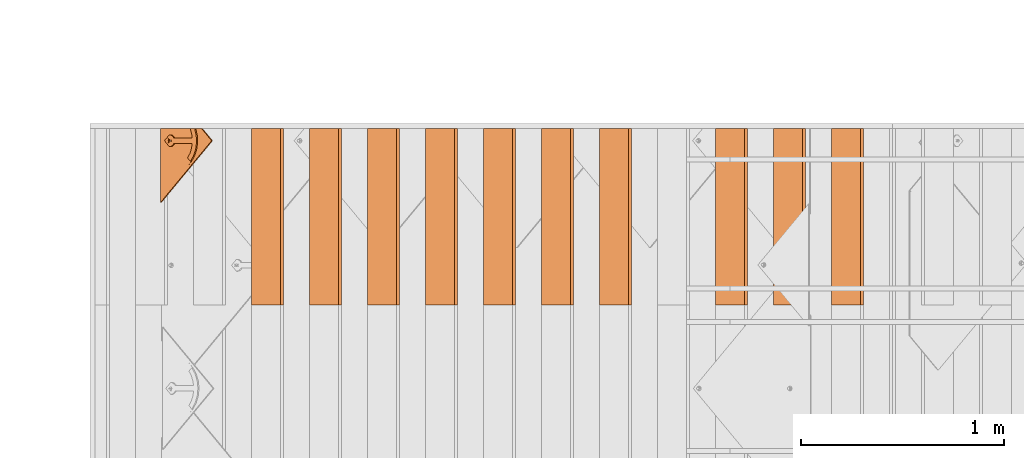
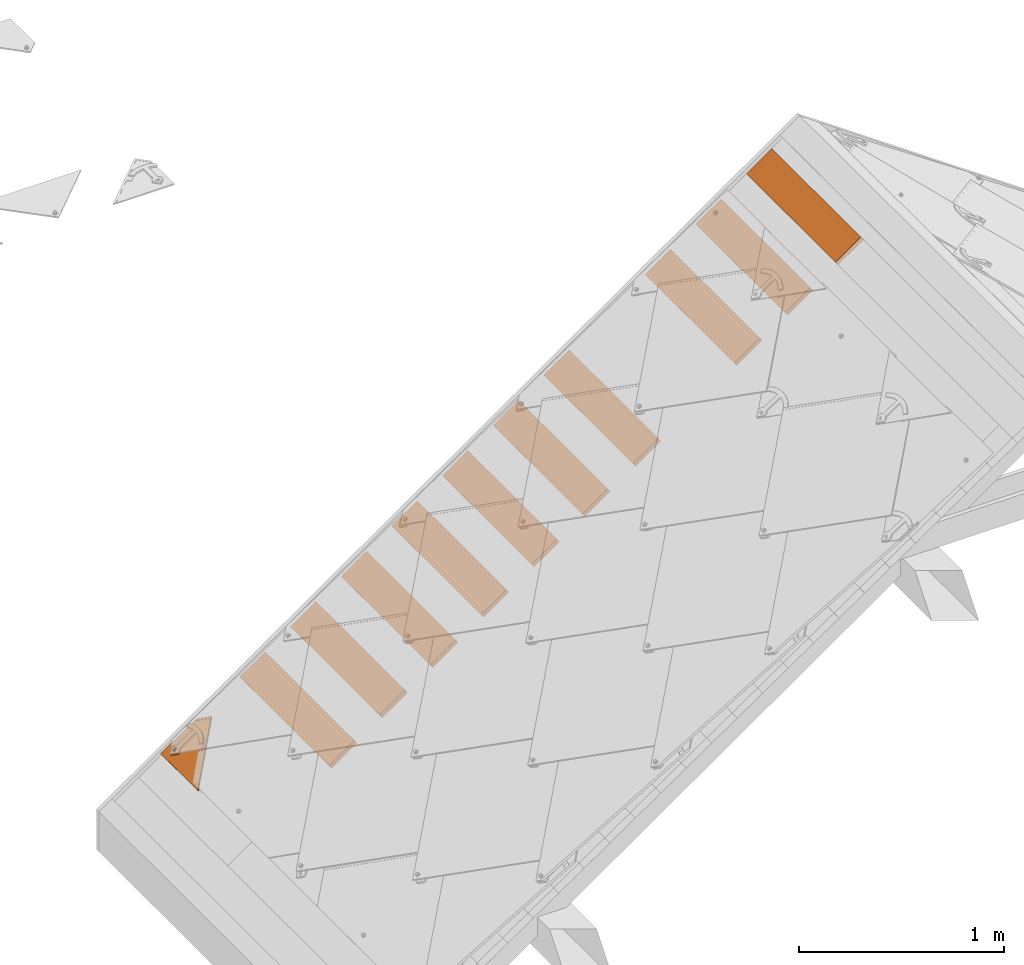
# One storey, part 107 of 133: 11 proxies, 1 element without a shape of its own.
"""IFC2X3 building model written with IfcOpenShell, lengths in millimetres."""

import ifcopenshell
import ifcopenshell.guid

model = None  # the IFC model being written
_history = None  # IfcOwnerHistory: only IFC2X3 demands one
_inside = {}  # id of a spatial element -> (the spatial element, [elements in it])
_under = {}  # id of a project, library or spatial element -> (it, [spatial elements below it])
_declared = {}  # id of a project -> (the project, [libraries it declares])
_typed = {}  # id of a type object -> (the type object, [elements of that type])
_made_of = {}  # id of a material, layer set ... -> (it, [elements and type objects made of it])


def new_model(schema):
    """Start an empty IFC model of exactly this schema.

    Asked for "IFC4X3", IfcOpenShell would pick the latest addendum, in which some entities
    have other attributes; the version numbers below select the first issue.
    IFC2X3 requires an IfcOwnerHistory on every rooted entity: one is made here for all.
    """
    global model, _history
    if schema == "IFC4X3":
        model = ifcopenshell.file(schema_version=(4, 3, 0, 0))
    else:
        model = ifcopenshell.file(schema=schema)
    _inside.clear()
    _under.clear()
    _declared.clear()
    _typed.clear()
    _made_of.clear()
    _history = None
    if model.schema == "IFC2X3":
        org = make("IfcOrganization", Name="unknown")
        user = make(
            "IfcPersonAndOrganization",
            ThePerson=make("IfcPerson", FamilyName="unknown"),
            TheOrganization=org,
        )
        app = make(
            "IfcApplication",
            ApplicationDeveloper=org,
            Version="unknown",
            ApplicationFullName="unknown",
            ApplicationIdentifier="unknown",
        )
        _history = make(
            "IfcOwnerHistory",
            OwningUser=user,
            OwningApplication=app,
            ChangeAction="ADDED",
            CreationDate=0,
        )
    return model


def make(cls, **values):
    """One entity of the class cls with the attributes given. An attribute that is None is left unset."""
    return model.create_entity(
        cls, **{name: value for name, value in values.items() if value is not None}
    )


def entity(cls, *values):
    """Any entity or typed value of the class cls, its attributes in the order of the schema. None: left unset."""
    e = model.create_entity(cls)
    for i, value in enumerate(values):
        if value is not None:
            e[i] = value
    return e


def rooted(cls, **values):
    """An entity with a GlobalId (a new one), such as an element, a storey or a relation."""
    return make(cls, GlobalId=ifcopenshell.guid.new(), OwnerHistory=_history, **values)


def si_unit(unit_type, name, prefix=None):
    """IfcSIUnit, for example si_unit("LENGTHUNIT", "METRE", prefix="MILLI")."""
    return make("IfcSIUnit", UnitType=unit_type, Prefix=prefix, Name=name)


def converted_unit(unit_type, name, factor, base, dimensions=None, offset=None):
    """IfcConversionBasedUnit, such as the inch: factor (a typed value) times the base unit."""
    return make(
        "IfcConversionBasedUnit"
        if offset is None
        else "IfcConversionBasedUnitWithOffset",
        ConversionOffset=offset,
        Dimensions=None
        if dimensions is None
        else entity("IfcDimensionalExponents", *dimensions),
        UnitType=unit_type,
        Name=name,
        ConversionFactor=make(
            "IfcMeasureWithUnit", ValueComponent=factor, UnitComponent=base
        ),
    )


def derived_unit(unit_type, elements):
    """IfcDerivedUnit: a product of units, each with its exponent."""
    return make(
        "IfcDerivedUnit",
        Elements=[
            make("IfcDerivedUnitElement", Unit=unit, Exponent=power)
            for unit, power in elements
        ],
        UnitType=unit_type,
    )


def assignment(units):
    """IfcUnitAssignment: the units of a project."""
    return None if units is None else make("IfcUnitAssignment", Units=units)


def point(xyz):
    """IfcCartesianPoint."""
    return None if xyz is None else make("IfcCartesianPoint", Coordinates=xyz)


def direction(xyz):
    """IfcDirection."""
    return None if xyz is None else make("IfcDirection", DirectionRatios=xyz)


def frame(location, z_axis=None, x_axis=None):
    """IfcAxis2Placement3D, a coordinate frame: its origin and axes. An axis left out is left unset."""
    return make(
        "IfcAxis2Placement3D",
        Location=point(location),
        Axis=direction(z_axis),
        RefDirection=direction(x_axis),
    )


def frame_2d(location, x_axis=None):
    """IfcAxis2Placement2D, a coordinate frame in the plane: its origin and x axis."""
    return make(
        "IfcAxis2Placement2D", Location=point(location), RefDirection=direction(x_axis)
    )


def origin():
    """The frame at (0, 0, 0) with its axes left unset."""
    return frame((0.0, 0.0, 0.0))


def place(relative_to, where):
    """IfcLocalPlacement: puts the frame where relative to a parent placement (None: the world)."""
    return make(
        "IfcLocalPlacement", PlacementRelTo=relative_to, RelativePlacement=where
    )


def context(
    kind, dimensions, precision=None, world=None, true_north=None, identifier=None
):
    """IfcGeometricRepresentationContext, for example the 3D "Model" context."""
    return make(
        "IfcGeometricRepresentationContext",
        ContextIdentifier=identifier,
        ContextType=kind,
        CoordinateSpaceDimension=dimensions,
        Precision=precision,
        WorldCoordinateSystem=world,
        TrueNorth=true_north,
    )


def subcontext(parent, identifier, kind, view, scale=None):
    """IfcGeometricRepresentationSubContext, for example "Body" below "Model"."""
    return make(
        "IfcGeometricRepresentationSubContext",
        ContextIdentifier=identifier,
        ContextType=kind,
        ParentContext=parent,
        TargetScale=scale,
        TargetView=view,
    )


def project(units=None, contexts=None):
    """IfcProject with its units and contexts."""
    return rooted(
        "IfcProject",
        Name="project",
        RepresentationContexts=contexts,
        UnitsInContext=assignment(units),
    )


def spatial(cls, under=None, at=None, **own):
    """A site, building, storey or space (cls), placed at a placement, below another one or the project."""
    s = rooted(cls, ObjectPlacement=at, **own)
    if under is not None:
        _under.setdefault(under.id(), (under, []))[1].append(s)
    return s


def profile(cls, at=None, kind="AREA", **sizes):
    """A parametric profile (cls). Its sizes go by their IFC names, for example OverallWidth=200.0."""
    return make(cls, ProfileType=kind, Position=at, **sizes)


def rectangle(**sizes):
    """IfcRectangleProfileDef."""
    return profile("IfcRectangleProfileDef", **sizes)


def extrude(swept, where, along, depth):
    """IfcExtrudedAreaSolid: the profile swept, set in the frame where, extruded along a direction by depth."""
    return make(
        "IfcExtrudedAreaSolid",
        SweptArea=swept,
        Position=where,
        ExtrudedDirection=direction(along),
        Depth=depth,
    )


def faces_of(points, faces, orient=None, outer=None):
    """IfcFace entities. A face is a list of loops; a loop is a list of indices into points, from 0.

    orient and outer hold one flag for each loop. By default every Orientation is true, the
    first loop of a face is its IfcFaceOuterBound and the others are IfcFaceBound.
    """
    made = []
    for i, loops in enumerate(faces):
        bounds = []
        for j, loop in enumerate(loops):
            is_outer = j == 0 if outer is None else outer[i][j]
            bounds.append(
                make(
                    "IfcFaceOuterBound" if is_outer else "IfcFaceBound",
                    Bound=make("IfcPolyLoop", Polygon=[points[k] for k in loop]),
                    Orientation=True if orient is None else orient[i][j],
                )
            )
        made.append(make("IfcFace", Bounds=bounds))
    return made


def faceted_brep(points, faces, orient=None, outer=None, voids=None):
    """IfcFacetedBrep: a solid bounded by flat faces; with voids (closed shells), ...WithVoids."""
    shared = [point(p) for p in points]
    hull = make("IfcClosedShell", CfsFaces=faces_of(shared, faces, orient, outer))
    if voids is None:
        return make("IfcFacetedBrep", Outer=hull)
    return make(
        "IfcFacetedBrepWithVoids",
        Outer=hull,
        Voids=[
            make(cls, CfsFaces=faces_of(shared, fs, o, b)) for cls, fs, o, b in voids
        ],
    )


def shape(context_of_items, identifier, shape_type, items):
    """IfcShapeRepresentation: the items that make up one representation, for example the "Body"."""
    return make(
        "IfcShapeRepresentation",
        ContextOfItems=context_of_items,
        RepresentationIdentifier=identifier,
        RepresentationType=shape_type,
        Items=items,
    )


def source(mapping_origin, context_of_items, identifier, shape_type, items):
    """IfcRepresentationMap: a shape defined once, which mapped items show again and again."""
    return make(
        "IfcRepresentationMap",
        MappingOrigin=mapping_origin,
        MappedRepresentation=shape(context_of_items, identifier, shape_type, items),
    )


def transform(
    local_origin,
    x_axis=None,
    y_axis=None,
    z_axis=None,
    scale=None,
    scale2=None,
    scale3=None,
    uniform=True,
):
    """IfcCartesianTransformationOperator3D, or its non-uniform kind. x_axis, y_axis, z_axis: its Axis1, 2, 3."""
    if uniform:
        return make(
            "IfcCartesianTransformationOperator3D",
            Axis1=direction(x_axis),
            Axis2=direction(y_axis),
            LocalOrigin=point(local_origin),
            Scale=scale,
            Axis3=direction(z_axis),
        )
    return make(
        "IfcCartesianTransformationOperator3DnonUniform",
        Axis1=direction(x_axis),
        Axis2=direction(y_axis),
        LocalOrigin=point(local_origin),
        Scale=scale,
        Axis3=direction(z_axis),
        Scale2=scale2,
        Scale3=scale3,
    )


def mapped(mapping_source, mapping_target):
    """IfcMappedItem: shows the shape of a source again, moved by a transform."""
    return make(
        "IfcMappedItem", MappingSource=mapping_source, MappingTarget=mapping_target
    )


def material(Name=None, Category=None):
    """IfcMaterial."""
    return make("IfcMaterial", Name=Name, Category=Category)


def material_list(materials):
    """IfcMaterialList."""
    return make("IfcMaterialList", Materials=materials)


def made_of(thing, what):
    """Note that an element or type object is made of a material, layer set ...; save() writes the relation."""
    if what is not None:
        _made_of.setdefault(what.id(), (what, []))[1].append(thing)
    return thing


def type_object(cls, material=None, **own):
    """A type object (cls), such as IfcWallType, which elements share."""
    return made_of(rooted(cls, **own), material)


def type_shapes(of_type, sources):
    """Give a type object the sources (RepresentationMaps) that its elements show as mapped items."""
    of_type.RepresentationMaps = sources


def element(
    cls,
    number,
    at=None,
    inside=None,
    cuts=None,
    type_object=None,
    material=None,
    context=None,
    identifier="Body",
    shape_type=None,
    held_by="IfcProductDefinitionShape",
    body=None,
    shapes=None,
    **own,
):
    """One element of the class cls, such as IfcWall. Its Tag is "e" and its number.

    at: its placement. inside: the storey or other place that contains it. cuts: it is an
    opening in that element (IfcRelVoidsElement). A single representation is given by context,
    identifier, shape_type and body (its items); several are given by shapes. held_by: the class
    of the entity that holds the representations. save() writes the other relations.
    """
    e = rooted(cls, Tag="e%d" % number, ObjectPlacement=at, **own)
    if body is not None:
        shapes = [shape(context, identifier, shape_type, body)]
    if shapes is not None:
        e.Representation = make(held_by, Representations=shapes)
    if inside is not None:
        _inside.setdefault(inside.id(), (inside, []))[1].append(e)
    if cuts is not None:
        rooted(
            "IfcRelVoidsElement", RelatingBuildingElement=cuts, RelatedOpeningElement=e
        )
    if type_object is not None:
        _typed.setdefault(type_object.id(), (type_object, []))[1].append(e)
    return made_of(e, material)


def aggregate(whole, parts):
    """IfcRelAggregates: a whole, such as a stair, and the parts it consists of."""
    return rooted("IfcRelAggregates", RelatingObject=whole, RelatedObjects=parts)


def save(model, path):
    """Write the relations noted so far, then the file.

    IfcRelAggregates (storeys below a building ...), IfcRelContainedInSpatialStructure (elements
    in a storey), IfcRelDefinesByType, IfcRelAssociatesMaterial and IfcRelDeclares: one each for
    every whole, place, type object, material and project.
    """
    for whole, parts in _under.values():
        aggregate(whole, parts)
    for where, things in _inside.values():
        rooted(
            "IfcRelContainedInSpatialStructure",
            RelatedElements=things,
            RelatingStructure=where,
        )
    for kind, things in _typed.values():
        rooted("IfcRelDefinesByType", RelatedObjects=things, RelatingType=kind)
    for what, things in _made_of.values():
        rooted("IfcRelAssociatesMaterial", RelatedObjects=things, RelatingMaterial=what)
    for by, libraries in _declared.values():
        rooted("IfcRelDeclares", RelatingContext=by, RelatedDefinitions=libraries)
    model.write(path)


model = new_model("IFC2X3")

# Units and contexts
model_context = context("Model", 3, precision=0.01, world=origin(), true_north=direction((6.12303176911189e-17, 1.0)))
body_context = subcontext(model_context, "Body", "Model", "MODEL_VIEW")
ifc_project = project(units=[si_unit("LENGTHUNIT", "METRE", prefix="MILLI"), si_unit("AREAUNIT", "SQUARE_METRE"), si_unit("VOLUMEUNIT", "CUBIC_METRE"), converted_unit("PLANEANGLEUNIT", "DEGREE", entity("IfcRatioMeasure", 0.0174532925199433), si_unit("PLANEANGLEUNIT", "RADIAN"), dimensions=[0, 0, 0, 0, 0, 0, 0]), si_unit("MASSUNIT", "GRAM", prefix="KILO"), derived_unit("MASSDENSITYUNIT", [(si_unit("MASSUNIT", "GRAM", prefix="KILO"), 1), (si_unit("LENGTHUNIT", "METRE"), -3)]), si_unit("TIMEUNIT", "SECOND"), si_unit("FREQUENCYUNIT", "HERTZ"), si_unit("THERMODYNAMICTEMPERATUREUNIT", "DEGREE_CELSIUS"), derived_unit("THERMALTRANSMITTANCEUNIT", [(si_unit("MASSUNIT", "GRAM", prefix="KILO"), 1), (si_unit("THERMODYNAMICTEMPERATUREUNIT", "KELVIN"), -1), (si_unit("TIMEUNIT", "SECOND"), -3)]), derived_unit("VOLUMETRICFLOWRATEUNIT", [(si_unit("LENGTHUNIT", "METRE"), 3), (si_unit("TIMEUNIT", "SECOND"), -1)]), si_unit("ELECTRICCURRENTUNIT", "AMPERE"), si_unit("ELECTRICVOLTAGEUNIT", "VOLT"), si_unit("POWERUNIT", "WATT"), si_unit("FORCEUNIT", "NEWTON", prefix="KILO"), si_unit("ILLUMINANCEUNIT", "LUX"), si_unit("LUMINOUSFLUXUNIT", "LUMEN"), si_unit("LUMINOUSINTENSITYUNIT", "CANDELA"), derived_unit("USERDEFINED", [(si_unit("MASSUNIT", "GRAM", prefix="KILO"), -1), (si_unit("LENGTHUNIT", "METRE"), -2), (si_unit("TIMEUNIT", "SECOND"), 3), (si_unit("LUMINOUSFLUXUNIT", "LUMEN"), 1)]), derived_unit("LINEARVELOCITYUNIT", [(si_unit("LENGTHUNIT", "METRE"), 1), (si_unit("TIMEUNIT", "SECOND"), -1)]), si_unit("PRESSUREUNIT", "PASCAL"), derived_unit("USERDEFINED", [(si_unit("LENGTHUNIT", "METRE"), -2), (si_unit("MASSUNIT", "GRAM", prefix="KILO"), 1), (si_unit("TIMEUNIT", "SECOND"), -2)])], contexts=[model_context])

# Site, building, storey
site_placement = place(None, origin())
site = spatial("IfcSite", under=ifc_project, at=site_placement, Name="Default", CompositionType="ELEMENT")
building_placement = place(site_placement, origin())
building = spatial("IfcBuilding", under=site, at=building_placement, CompositionType="ELEMENT")
storey_placement = place(building_placement, origin())
storey = spatial("IfcBuildingStorey", under=building, at=storey_placement, Name="Level 1", CompositionType="ELEMENT", Elevation=0.0)

# Assembly, proxies
assembly_placement = place(storey_placement, origin())
assembly = element("IfcElementAssembly", 1, at=assembly_placement, inside=storey, Name="Structural Framing Assembly:Roof Construction Assembly", ObjectType="Structural Framing Assembly:Roof Construction Assembly", AssemblyPlace="NOTDEFINED", PredefinedType="USERDEFINED")
ifc_material_1 = material(Name="Wood - Generic - Wood For Showcase")
building_element_proxy_type_1 = type_object("IfcBuildingElementProxyType", Name="Structural Framing 15", PredefinedType="NOTDEFINED", material=ifc_material_1)
shared_shape_1 = source(origin(), body_context, "Body", "SweptSolid", [
    extrude(rectangle(XDim=24.9999999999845, YDim=174.344679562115, at=frame_2d((-1.77635683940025e-13, -4.54747350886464e-13), x_axis=(0.0, 1.0))), frame((1128.20180147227, 3055.55080214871, 2760.23940055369), z_axis=(0.0, 1.0, 0.0), x_axis=(-0.819152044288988, 0.0, -0.573576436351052)), (0.0, 0.0, 1.0), 870.000000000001),
])
type_shapes(building_element_proxy_type_1, [shared_shape_1])
proxy_1_placement = place(assembly_placement, frame((-142.814800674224, 0.0, -100.0)))
proxy_1 = element("IfcBuildingElementProxy", 2, at=proxy_1_placement, type_object=building_element_proxy_type_1, material=ifc_material_1, Name="Structural Framing 24:Structural Framing 15", ObjectType="Structural Framing 24:Structural Framing 15", context=body_context, shape_type="MappedRepresentation", body=[
    mapped(shared_shape_1, transform((0.0, 0.0, 0.0), scale=1.0)),
])
building_element_proxy_type_2 = type_object("IfcBuildingElementProxyType", Name="Structural Framing 15", PredefinedType="NOTDEFINED", material=ifc_material_1)
shared_shape_2 = source(origin(), body_context, "Body", "SweptSolid", [
    extrude(rectangle(XDim=24.9999999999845, YDim=174.344679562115, at=frame_2d((-1.77635683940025e-13, -4.54747350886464e-13), x_axis=(0.0, 1.0))), frame((1128.20180147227, 3055.55080214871, 2760.23940055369), z_axis=(0.0, 1.0, 0.0), x_axis=(-0.819152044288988, 0.0, -0.573576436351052)), (0.0, 0.0, 1.0), 870.000000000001),
])
type_shapes(building_element_proxy_type_2, [shared_shape_2])
proxy_2_placement = place(assembly_placement, frame((-428.444402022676, 0.0, -300.0)))
proxy_2 = element("IfcBuildingElementProxy", 3, at=proxy_2_placement, type_object=building_element_proxy_type_2, material=ifc_material_1, Name="Structural Framing 34:Structural Framing 15", ObjectType="Structural Framing 34:Structural Framing 15", context=body_context, shape_type="MappedRepresentation", body=[
    mapped(shared_shape_2, transform((0.0, 0.0, 0.0), scale=1.0)),
])
building_element_proxy_type_3 = type_object("IfcBuildingElementProxyType", Name="Structural Framing 15", PredefinedType="NOTDEFINED", material=ifc_material_1)
shared_shape_3 = source(origin(), body_context, "Body", "SweptSolid", [
    extrude(rectangle(XDim=24.9999999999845, YDim=174.344679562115, at=frame_2d((-1.77635683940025e-13, -4.54747350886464e-13), x_axis=(0.0, 1.0))), frame((1128.20180147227, 3055.55080214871, 2760.23940055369), z_axis=(0.0, 1.0, 0.0), x_axis=(-0.819152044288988, 0.0, -0.573576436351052)), (0.0, 0.0, 1.0), 870.000000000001),
])
type_shapes(building_element_proxy_type_3, [shared_shape_3])
proxy_3_placement = place(assembly_placement, frame((-714.074003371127, 0.0, -500.0)))
proxy_3 = element("IfcBuildingElementProxy", 4, at=proxy_3_placement, type_object=building_element_proxy_type_3, material=ifc_material_1, Name="Structural Framing 44:Structural Framing 15", ObjectType="Structural Framing 44:Structural Framing 15", context=body_context, shape_type="MappedRepresentation", body=[
    mapped(shared_shape_3, transform((0.0, 0.0, 0.0), scale=1.0)),
])
building_element_proxy_type_4 = type_object("IfcBuildingElementProxyType", Name="Structural Framing 15", PredefinedType="NOTDEFINED", material=ifc_material_1)
shared_shape_4 = source(origin(), body_context, "Body", "SweptSolid", [
    extrude(rectangle(XDim=24.9999999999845, YDim=174.344679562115, at=frame_2d((-1.77635683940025e-13, -4.54747350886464e-13), x_axis=(0.0, 1.0))), frame((1128.20180147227, 3055.55080214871, 2760.23940055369), z_axis=(0.0, 1.0, 0.0), x_axis=(-0.819152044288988, 0.0, -0.573576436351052)), (0.0, 0.0, 1.0), 870.000000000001),
])
type_shapes(building_element_proxy_type_4, [shared_shape_4])
proxy_4_placement = place(assembly_placement, frame((-1285.33320606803, 0.0, -900.0)))
proxy_4 = element("IfcBuildingElementProxy", 5, at=proxy_4_placement, type_object=building_element_proxy_type_4, material=ifc_material_1, Name="Structural Framing 64:Structural Framing 15", ObjectType="Structural Framing 64:Structural Framing 15", context=body_context, shape_type="MappedRepresentation", body=[
    mapped(shared_shape_4, transform((0.0, 0.0, 0.0), scale=1.0)),
])
building_element_proxy_type_5 = type_object("IfcBuildingElementProxyType", Name="Structural Framing 15", PredefinedType="NOTDEFINED", material=ifc_material_1)
shared_shape_5 = source(origin(), body_context, "Body", "SweptSolid", [
    extrude(rectangle(XDim=24.9999999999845, YDim=174.344679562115, at=frame_2d((-1.77635683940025e-13, -4.54747350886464e-13), x_axis=(0.0, 1.0))), frame((1128.20180147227, 3055.55080214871, 2760.23940055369), z_axis=(0.0, 1.0, 0.0), x_axis=(-0.819152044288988, 0.0, -0.573576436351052)), (0.0, 0.0, 1.0), 870.000000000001),
])
type_shapes(building_element_proxy_type_5, [shared_shape_5])
proxy_5_placement = place(assembly_placement, frame((-1570.96280741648, 0.0, -1100.0)))
proxy_5 = element("IfcBuildingElementProxy", 6, at=proxy_5_placement, type_object=building_element_proxy_type_5, material=ifc_material_1, Name="Structural Framing 74:Structural Framing 15", ObjectType="Structural Framing 74:Structural Framing 15", context=body_context, shape_type="MappedRepresentation", body=[
    mapped(shared_shape_5, transform((0.0, 0.0, 0.0), scale=1.0)),
])
building_element_proxy_type_6 = type_object("IfcBuildingElementProxyType", Name="Structural Framing 15", PredefinedType="NOTDEFINED", material=ifc_material_1)
shared_shape_6 = source(origin(), body_context, "Body", "SweptSolid", [
    extrude(rectangle(XDim=24.9999999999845, YDim=174.344679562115, at=frame_2d((-1.77635683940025e-13, -4.54747350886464e-13), x_axis=(0.0, 1.0))), frame((1128.20180147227, 3055.55080214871, 2760.23940055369), z_axis=(0.0, 1.0, 0.0), x_axis=(-0.819152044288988, 0.0, -0.573576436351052)), (0.0, 0.0, 1.0), 870.000000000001),
])
type_shapes(building_element_proxy_type_6, [shared_shape_6])
proxy_6_placement = place(assembly_placement, frame((-1856.59240876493, 0.0, -1300.0)))
proxy_6 = element("IfcBuildingElementProxy", 7, at=proxy_6_placement, type_object=building_element_proxy_type_6, material=ifc_material_1, Name="Structural Framing 84:Structural Framing 15", ObjectType="Structural Framing 84:Structural Framing 15", context=body_context, shape_type="MappedRepresentation", body=[
    mapped(shared_shape_6, transform((0.0, 0.0, 0.0), scale=1.0)),
])
building_element_proxy_type_7 = type_object("IfcBuildingElementProxyType", Name="Structural Framing 15", PredefinedType="NOTDEFINED", material=ifc_material_1)
shared_shape_7 = source(origin(), body_context, "Body", "SweptSolid", [
    extrude(rectangle(XDim=24.9999999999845, YDim=174.344679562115, at=frame_2d((-1.77635683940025e-13, -4.54747350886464e-13), x_axis=(0.0, 1.0))), frame((1128.20180147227, 3055.55080214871, 2760.23940055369), z_axis=(0.0, 1.0, 0.0), x_axis=(-0.819152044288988, 0.0, -0.573576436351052)), (0.0, 0.0, 1.0), 870.000000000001),
])
type_shapes(building_element_proxy_type_7, [shared_shape_7])
proxy_7_placement = place(assembly_placement, frame((-2142.22201011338, 0.0, -1500.0)))
proxy_7 = element("IfcBuildingElementProxy", 8, at=proxy_7_placement, type_object=building_element_proxy_type_7, material=ifc_material_1, Name="Structural Framing 94:Structural Framing 15", ObjectType="Structural Framing 94:Structural Framing 15", context=body_context, shape_type="MappedRepresentation", body=[
    mapped(shared_shape_7, transform((0.0, 0.0, 0.0), scale=1.0)),
])
building_element_proxy_type_8 = type_object("IfcBuildingElementProxyType", Name="Structural Framing 15", PredefinedType="NOTDEFINED", material=ifc_material_1)
shared_shape_8 = source(origin(), body_context, "Body", "SweptSolid", [
    extrude(rectangle(XDim=24.9999999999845, YDim=174.344679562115, at=frame_2d((-1.77635683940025e-13, -4.54747350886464e-13), x_axis=(0.0, 1.0))), frame((1128.20180147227, 3055.55080214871, 2760.23940055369), z_axis=(0.0, 1.0, 0.0), x_axis=(-0.819152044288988, 0.0, -0.573576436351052)), (0.0, 0.0, 1.0), 870.000000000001),
])
type_shapes(building_element_proxy_type_8, [shared_shape_8])
proxy_8_placement = place(assembly_placement, frame((-2427.85161146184, 0.0, -1700.0)))
proxy_8 = element("IfcBuildingElementProxy", 9, at=proxy_8_placement, type_object=building_element_proxy_type_8, material=ifc_material_1, Name="Structural Framing 104:Structural Framing 15", ObjectType="Structural Framing 104:Structural Framing 15", context=body_context, shape_type="MappedRepresentation", body=[
    mapped(shared_shape_8, transform((0.0, 0.0, 0.0), scale=1.0)),
])
building_element_proxy_type_9 = type_object("IfcBuildingElementProxyType", Name="Structural Framing 15", PredefinedType="NOTDEFINED", material=ifc_material_1)
shared_shape_9 = source(origin(), body_context, "Body", "SweptSolid", [
    extrude(rectangle(XDim=24.9999999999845, YDim=174.344679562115, at=frame_2d((-1.77635683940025e-13, -4.54747350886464e-13), x_axis=(0.0, 1.0))), frame((1128.20180147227, 3055.55080214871, 2760.23940055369), z_axis=(0.0, 1.0, 0.0), x_axis=(-0.819152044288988, 0.0, -0.573576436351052)), (0.0, 0.0, 1.0), 870.000000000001),
])
type_shapes(building_element_proxy_type_9, [shared_shape_9])
proxy_9_placement = place(assembly_placement, frame((-2713.48121281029, 0.0, -1900.0)))
proxy_9 = element("IfcBuildingElementProxy", 10, at=proxy_9_placement, type_object=building_element_proxy_type_9, material=ifc_material_1, Name="Structural Framing 114:Structural Framing 15", ObjectType="Structural Framing 114:Structural Framing 15", context=body_context, shape_type="MappedRepresentation", body=[
    mapped(shared_shape_9, transform((0.0, 0.0, 0.0), scale=1.0)),
])
building_element_proxy_type_10 = type_object("IfcBuildingElementProxyType", Name="Structural Framing 15", PredefinedType="NOTDEFINED", material=ifc_material_1)
shared_shape_10 = source(origin(), body_context, "Body", "SweptSolid", [
    extrude(rectangle(XDim=24.9999999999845, YDim=174.344679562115, at=frame_2d((-1.77635683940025e-13, -4.54747350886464e-13), x_axis=(0.0, 1.0))), frame((1128.20180147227, 3055.55080214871, 2760.23940055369), z_axis=(0.0, 1.0, 0.0), x_axis=(-0.819152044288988, 0.0, -0.573576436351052)), (0.0, 0.0, 1.0), 870.000000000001),
])
type_shapes(building_element_proxy_type_10, [shared_shape_10])
proxy_10_placement = place(assembly_placement, frame((-2999.11081415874, 0.0, -2100.0)))
proxy_10 = element("IfcBuildingElementProxy", 11, at=proxy_10_placement, type_object=building_element_proxy_type_10, material=ifc_material_1, Name="Structural Framing 124:Structural Framing 15", ObjectType="Structural Framing 124:Structural Framing 15", context=body_context, shape_type="MappedRepresentation", body=[
    mapped(shared_shape_10, transform((0.0, 0.0, 0.0), scale=1.0)),
])
aggregate(assembly, [proxy_1, proxy_2, proxy_3, proxy_4, proxy_5, proxy_6, proxy_7, proxy_8, proxy_9, proxy_10])

# Proxy
ifc_material_2 = material(Name="Rubber - Sunstyle - Black")
ifc_material_3 = material(Name="Glass - Sunstyle - Tainted Black")
ifc_material_list_1 = material_list([ifc_material_2, ifc_material_3])
ifc_material_list_2 = material_list([ifc_material_2, ifc_material_3])
building_element_proxy_type_11 = type_object("IfcBuildingElementProxyType", Name="Corner Bottom Small Left - Black", PredefinedType="NOTDEFINED", material=ifc_material_list_2)
shared_shape_11 = source(origin(), body_context, "Body", "Brep", [
    faceted_brep([(330.847757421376, 18.4932261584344, 12.2894055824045), (339.332443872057, 26.9779126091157, 12.1473081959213), (339.332443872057, 27.0030303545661, 13.6470978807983), (330.847757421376, 18.5183439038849, 13.7891952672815), (61.6993486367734, 287.566165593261, 7.7831033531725), (10.0799586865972, 235.961249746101, 8.64735729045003), (1.59527223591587, 244.445936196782, 8.50525990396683), (61.6993486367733, 304.533159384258, 7.49894842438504), (61.6993486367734, 304.558277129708, 8.9987381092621), (1.59527223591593, 244.471053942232, 10.0050495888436), (10.0799586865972, 235.986367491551, 10.147146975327), (61.6993486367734, 287.591283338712, 9.2828930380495)], [[[0, 1, 2, 3]], [[1, 0, 4, 5, 6, 7]], [[2, 1, 7, 8]], [[3, 2, 8, 9, 10, 11]], [[0, 3, 11, 4]], [[5, 10, 9, 6]], [[8, 7, 6, 9]], [[4, 11, 10, 5]]]),
    faceted_brep([(61.6990261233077, 46.946835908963, 21.8142807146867), (61.6990261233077, 51.4462045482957, 21.7389274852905), (53.0953219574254, 50.5101071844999, 21.7546047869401), (70.3027302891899, 50.5101071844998, 21.7546047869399), (68.3392547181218, 55.2794047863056, 21.6747309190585), (73.8665012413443, 59.1126050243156, 21.6105343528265), (68.3392547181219, 62.9458052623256, 21.5463377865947), (70.30273028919, 67.7151028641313, 21.4664639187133), (61.6990261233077, 66.7790055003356, 21.4821412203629), (61.6990261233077, 71.2783741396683, 21.4067879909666), (53.0953219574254, 67.7151028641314, 21.4664639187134), (55.0587975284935, 62.9458052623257, 21.5463377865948), (49.5315510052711, 59.1126050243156, 21.6105343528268), (55.0587975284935, 55.2794047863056, 21.6747309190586), (55.0587978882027, 62.6778824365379, 5.54858115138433), (61.6990261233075, 66.5110824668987, 5.48438458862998), (55.0587978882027, 55.0114823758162, 5.6769742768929), (61.6990261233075, 51.1782823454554, 5.74117083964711), (68.3392543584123, 55.0114823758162, 5.67697427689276), (68.3392543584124, 62.6778824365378, 5.5485811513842), (53.0953219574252, 50.2421845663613, 5.75684814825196), (61.6990261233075, 46.6789132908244, 5.81652407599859), (49.5315510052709, 58.844682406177, 5.61277771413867), (53.0953219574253, 67.4471802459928, 5.4687072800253), (61.6990261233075, 71.0104515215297, 5.4090313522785), (70.3027302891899, 67.4471802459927, 5.46870728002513), (73.8665012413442, 58.844682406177, 5.61277771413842), (70.3027302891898, 50.2421845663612, 5.75684814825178)], [[[0, 1, 2]], [[1, 0, 3]], [[3, 4, 1]], [[4, 3, 5]], [[6, 4, 5]], [[5, 7, 6]], [[7, 8, 6]], [[8, 7, 9]], [[8, 9, 10]], [[10, 11, 8]], [[12, 11, 10]], [[2, 13, 12]], [[12, 13, 11]], [[13, 2, 1]], [[8, 11, 14, 15]], [[11, 13, 16, 14]], [[13, 1, 17, 16]], [[1, 4, 18, 17]], [[4, 6, 19, 18]], [[6, 8, 15, 19]], [[20, 17, 21]], [[17, 20, 16]], [[22, 16, 20]], [[14, 16, 22]], [[23, 14, 22]], [[15, 14, 23]], [[23, 24, 15]], [[24, 25, 15]], [[19, 15, 25]], [[19, 25, 26]], [[26, 18, 19]], [[26, 27, 18]], [[17, 18, 27]], [[27, 21, 17]], [[24, 23, 10, 9]], [[10, 23, 22, 12]], [[20, 21, 0, 2]], [[20, 2, 12, 22]], [[21, 27, 3, 0]], [[3, 27, 26, 5]], [[25, 24, 9, 7]], [[25, 7, 5, 26]]]),
    faceted_brep([(1.59527223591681, 244.445936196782, 8.50525990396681), (58.5931975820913, 70.7020897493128, 11.4150370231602), (61.6990261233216, 71.1109225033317, 11.4081900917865), (55.6990261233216, 69.5034527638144, 11.4351112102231), (64.8048546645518, 70.7020897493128, 11.4150370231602), (53.213744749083, 67.596696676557, 11.4670446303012), (51.3067212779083, 65.1117637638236, 11.5086610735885), (1.5952722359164, 0.125588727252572, 12.5970178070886), (67.6990261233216, 69.5034527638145, 11.4351112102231), (61.6993486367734, 304.533159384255, 7.49894842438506), (50.1079162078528, 62.2179980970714, 11.5571244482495), (49.6990261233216, 59.1126050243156, 11.6091320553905), (50.1079162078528, 56.0072119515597, 11.6611396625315), (51.3067212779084, 53.1134462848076, 11.7096030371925), (53.2137447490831, 50.6285133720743, 11.7512194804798), (55.6990261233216, 48.7217572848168, 11.7831529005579), (58.5931975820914, 47.5231202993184, 11.8032270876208), (61.6990261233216, 47.1142875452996, 11.8100740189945), (64.8048546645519, 47.5231202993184, 11.8032270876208), (67.6990261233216, 48.7217572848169, 11.7831529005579), (366.192299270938, 0.125588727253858, 12.5970178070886), (72.0913309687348, 65.1117637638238, 11.5086610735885), (73.2901360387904, 62.2179980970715, 11.5571244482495), (73.6990261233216, 59.1126050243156, 11.6091320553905), (70.1843074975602, 50.6285133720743, 11.7512194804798), (72.0913309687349, 53.1134462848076, 11.7096030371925), (73.2901360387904, 56.0072119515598, 11.6611396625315), (70.1843074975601, 67.596696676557, 11.4670446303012), (1.5952722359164, 0.0, 5.09806938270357), (55.6990261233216, 48.5961685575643, 4.2842044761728), (58.5931975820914, 47.3975315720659, 4.30427866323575), (53.2137447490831, 50.5029246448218, 4.25227105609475), (61.6990261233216, 46.9886988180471, 4.3111255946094), (51.3067212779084, 52.9878575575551, 4.21065461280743), (50.1079162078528, 55.8816232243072, 4.16219123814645), (49.6990261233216, 58.9870162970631, 4.11018363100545), (50.1079162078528, 62.0924093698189, 4.05817602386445), (64.8048546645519, 47.3975315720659, 4.30427866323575), (67.6990261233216, 48.5961685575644, 4.2842044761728), (366.192299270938, 0.0, 5.09806938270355), (51.3067212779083, 64.9861750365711, 4.00971264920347), (1.59527223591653, 244.320347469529, 1.00631147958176), (53.213744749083, 67.4711079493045, 3.96809620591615), (55.6990261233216, 69.3778640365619, 3.93616278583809), (58.5931975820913, 70.5765010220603, 3.91608859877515), (61.6990261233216, 70.9853337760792, 3.90924166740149), (64.8048546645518, 70.5765010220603, 3.91608859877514), (67.6990261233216, 69.377864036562, 3.93616278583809), (61.6993486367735, 304.407570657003, 0.0), (72.0913309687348, 64.9861750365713, 4.00971264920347), (70.1843074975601, 67.4711079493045, 3.96809620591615), (70.1843074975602, 50.5029246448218, 4.25227105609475), (72.0913309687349, 52.9878575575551, 4.21065461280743), (73.2901360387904, 55.8816232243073, 4.16219123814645), (73.6990261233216, 58.9870162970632, 4.11018363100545), (73.2901360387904, 62.092409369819, 4.05817602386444)], [[[0, 1, 2]], [[1, 0, 3]], [[0, 2, 4]], [[5, 3, 0]], [[6, 5, 0]], [[6, 0, 7]], [[8, 0, 4]], [[0, 8, 9]], [[7, 10, 6]], [[11, 10, 7]], [[12, 11, 7]], [[13, 12, 7]], [[7, 14, 13]], [[14, 7, 15]], [[16, 15, 7]], [[7, 17, 16]], [[17, 7, 18]], [[19, 18, 7]], [[20, 19, 7]], [[9, 21, 20]], [[20, 21, 22]], [[20, 22, 23]], [[19, 20, 24]], [[25, 24, 20]], [[26, 25, 20]], [[26, 20, 23]], [[9, 8, 27]], [[27, 21, 9]], [[28, 29, 30]], [[29, 28, 31]], [[28, 30, 32]], [[33, 31, 28]], [[34, 33, 28]], [[35, 34, 28]], [[28, 36, 35]], [[37, 28, 32]], [[37, 38, 28]], [[28, 38, 39]], [[36, 28, 40]], [[28, 41, 40]], [[42, 40, 41]], [[41, 43, 42]], [[43, 41, 44]], [[45, 44, 41]], [[41, 46, 45]], [[41, 47, 46]], [[47, 41, 48]], [[49, 48, 39]], [[50, 47, 48]], [[48, 49, 50]], [[38, 51, 39]], [[51, 52, 39]], [[52, 53, 39]], [[39, 53, 54]], [[55, 39, 54]], [[49, 39, 55]], [[11, 35, 36, 10]], [[10, 36, 40, 6]], [[3, 5, 42, 43]], [[40, 42, 5, 6]], [[1, 3, 43, 44]], [[45, 2, 1, 44]], [[4, 46, 47, 8]], [[8, 47, 50, 27]], [[22, 21, 49, 55]], [[50, 49, 21, 27]], [[23, 22, 55, 54]], [[4, 2, 45, 46]], [[23, 54, 53, 26]], [[26, 53, 52, 25]], [[19, 24, 51, 38]], [[52, 51, 24, 25]], [[18, 19, 38, 37]], [[32, 17, 18, 37]], [[16, 30, 29, 15]], [[15, 29, 31, 14]], [[12, 13, 33, 34]], [[31, 33, 13, 14]], [[11, 12, 34, 35]], [[16, 17, 32, 30]], [[0, 9, 48, 41]], [[7, 0, 41, 28]], [[20, 7, 28, 39]], [[9, 20, 39, 48]]]),
    faceted_brep([(1.59527223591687, 209.239382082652, 19.0962843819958), (1.59527223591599, 182.513149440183, 19.5438822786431), (24.4390403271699, 190.969673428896, 19.4022565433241), (34.6448586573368, 218.551914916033, 18.9403226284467), (48.3990261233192, 195.36105911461, 19.3287117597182), (68.9162632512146, 220.671424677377, 18.9048261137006), (74.999026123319, 195.361059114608, 19.3287117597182), (74.99902612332, 85.4841763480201, 21.1688761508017), (48.3990261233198, 85.4841763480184, 21.1688761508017), (61.6990261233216, 71.2783741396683, 21.4067879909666), (58.5931975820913, 70.8695413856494, 21.4136349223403), (55.6990261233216, 69.670904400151, 21.4337091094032), (42.9949199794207, 81.9461281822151, 21.2281296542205), (53.213744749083, 67.7641483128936, 21.4656425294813), (38.4943757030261, 77.3131226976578, 21.3057209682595), (51.3067212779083, 65.2792154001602, 21.5072589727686), (35.1148065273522, 71.8089720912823, 21.397901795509), (50.1079162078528, 62.385449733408, 21.5557223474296), (33.0194733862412, 65.6995720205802, 21.5002190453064), (49.6990261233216, 59.2800566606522, 21.6077299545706), (32.3095980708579, 59.2800566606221, 21.6077299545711), (50.1079162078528, 56.1746635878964, 21.6597375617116), (51.3067212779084, 53.2808979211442, 21.7082009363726), (53.2137447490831, 50.7959650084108, 21.7498173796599), (61.6990261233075, 29.8947493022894, 22.0998607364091), (55.6990261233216, 48.8892089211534, 21.7817507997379), (58.5931975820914, 47.690571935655, 21.8018249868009), (61.6990261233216, 47.2817391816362, 21.8086719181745), (64.8048546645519, 47.690571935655, 21.8018249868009), (67.6990261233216, 48.8892089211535, 21.7817507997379), (70.1843074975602, 50.7959650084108, 21.7498173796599), (91.0884541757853, 59.2800566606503, 21.6077299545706), (72.0913309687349, 53.2808979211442, 21.7082009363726), (73.2901360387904, 56.1746635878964, 21.6597375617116), (73.6990261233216, 59.2800566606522, 21.6077299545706), (90.3785788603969, 65.699572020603, 21.500219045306), (73.2901360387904, 62.3854497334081, 21.5557223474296), (88.2832457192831, 71.8089720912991, 21.3979017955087), (72.0913309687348, 65.2792154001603, 21.5072589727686), (84.9036765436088, 77.3131226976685, 21.3057209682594), (70.1843074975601, 67.7641483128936, 21.4656425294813), (80.4031322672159, 81.9461281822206, 21.2281296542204), (67.6990261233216, 69.6709044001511, 21.4337091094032), (64.8048546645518, 70.8695413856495, 21.4136349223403), (102.861723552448, 215.50219023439, 18.9913979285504), (100.468768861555, 190.546178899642, 19.4093490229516), (134.948197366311, 203.277664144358, 19.1961283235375), (124.623359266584, 181.142545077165, 19.5668364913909), (146.643422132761, 167.469148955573, 19.7958318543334), (163.72659789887, 184.549929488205, 19.5097712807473), (51.3067212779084, 53.1134462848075, 11.7096030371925), (32.3095980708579, 59.1126050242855, 11.609132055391), (50.1079162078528, 56.0072119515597, 11.6611396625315), (53.2137447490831, 50.6285133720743, 11.7512194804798), (61.6990261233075, 29.7272976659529, 12.1012628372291), (55.6990261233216, 48.7217572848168, 11.7831529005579), (58.5931975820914, 47.5231202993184, 11.8032270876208), (61.6990261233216, 47.1142875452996, 11.8100740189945), (64.8048546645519, 47.5231202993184, 11.8032270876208), (67.6990261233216, 48.7217572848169, 11.7831529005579), (70.1843074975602, 50.6285133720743, 11.7512194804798), (91.0884541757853, 59.1126050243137, 11.6091320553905), (72.0913309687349, 53.1134462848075, 11.7096030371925), (73.2901360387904, 56.0072119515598, 11.6611396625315), (73.6990261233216, 59.1126050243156, 11.6091320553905), (90.3785788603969, 65.5321203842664, 11.5016211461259), (73.2901360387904, 62.2179980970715, 11.5571244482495), (88.2832457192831, 71.6415204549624, 11.3993038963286), (72.0913309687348, 65.1117637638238, 11.5086610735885), (84.9036765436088, 77.1456710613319, 11.3071230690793), (70.1843074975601, 67.596696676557, 11.4670446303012), (80.4031322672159, 81.778676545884, 11.2295317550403), (67.6990261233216, 69.5034527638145, 11.4351112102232), (74.99902612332, 85.3167247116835, 11.1702782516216), (64.8048546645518, 70.7020897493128, 11.4150370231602), (61.6990261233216, 71.1109225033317, 11.4081900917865), (48.39902612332, 85.3167247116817, 11.1702782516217), (58.5931975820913, 70.7020897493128, 11.4150370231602), (55.6990261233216, 69.5034527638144, 11.4351112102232), (42.9949199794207, 81.7786765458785, 11.2295317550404), (53.213744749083, 67.596696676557, 11.4670446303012), (38.4943757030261, 77.1456710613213, 11.3071230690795), (51.3067212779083, 65.1117637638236, 11.5086610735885), (35.1148065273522, 71.6415204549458, 11.3993038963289), (50.1079162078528, 62.2179980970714, 11.5571244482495), (33.0194733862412, 65.5321203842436, 11.5016211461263), (49.6990261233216, 59.1126050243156, 11.6091320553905), (48.3990261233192, 195.193607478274, 9.33011386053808), (74.99902612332, 195.193607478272, 9.33011386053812), (68.9162632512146, 220.50397304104, 8.90622821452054), (34.6448586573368, 218.384463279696, 8.94172472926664), (24.4390403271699, 190.802221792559, 9.40365864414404), (1.59527223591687, 209.071930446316, 9.09768648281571), (1.59527223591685, 182.345697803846, 9.545284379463), (102.861723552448, 215.334738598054, 8.99280002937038), (100.468768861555, 190.378727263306, 9.4107511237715), (134.948197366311, 203.110212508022, 9.19753042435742), (124.623359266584, 180.975093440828, 9.5682385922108), (146.643422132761, 167.301697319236, 9.79723395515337), (163.72659789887, 184.382477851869, 9.51117338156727), (169.978999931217, 179.020830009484, 9.60096764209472), (175.949995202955, 173.347554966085, 9.69598088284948), (172.968069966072, 140.980740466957, 10.2380444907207), (190.645739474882, 158.655931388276, 9.94202902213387), (190.645739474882, 158.69779429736, 12.4416784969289), (172.968069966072, 141.022603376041, 12.7376939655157), (163.72659789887, 184.424340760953, 12.0108228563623), (146.643422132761, 167.34356022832, 12.2968834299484), (175.949995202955, 173.38941787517, 12.1956303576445), (169.978999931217, 179.062692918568, 12.1006171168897)], [[[0, 1, 2]], [[0, 2, 3]], [[2, 4, 3]], [[3, 4, 5]], [[5, 4, 6]], [[7, 6, 4]], [[7, 4, 8]], [[9, 7, 8]], [[9, 8, 10]], [[10, 8, 11]], [[12, 11, 8]], [[11, 12, 13]], [[14, 13, 12]], [[13, 14, 15]], [[15, 14, 16]], [[17, 15, 16]], [[18, 17, 16]], [[18, 19, 17]], [[19, 18, 20]], [[20, 21, 19]], [[20, 22, 21]], [[22, 20, 23]], [[23, 20, 24]], [[24, 25, 23]], [[26, 25, 24]], [[24, 27, 26]], [[28, 27, 24]], [[28, 24, 29]], [[30, 29, 24]], [[30, 24, 31]], [[31, 32, 30]], [[33, 32, 31]], [[31, 34, 33]], [[35, 34, 31]], [[34, 35, 36]], [[36, 35, 37]], [[36, 37, 38]], [[38, 37, 39]], [[39, 40, 38]], [[39, 41, 40]], [[7, 42, 41]], [[40, 41, 42]], [[42, 7, 43]], [[43, 7, 9]], [[44, 5, 6]], [[44, 6, 45]], [[45, 46, 44]], [[46, 45, 47]], [[47, 48, 46]], [[49, 46, 48]], [[50, 51, 52]], [[51, 50, 53]], [[51, 53, 54]], [[54, 53, 55]], [[55, 56, 54]], [[57, 54, 56]], [[54, 57, 58]], [[54, 58, 59]], [[59, 60, 54]], [[54, 60, 61]], [[61, 60, 62]], [[62, 63, 61]], [[64, 61, 63]], [[61, 64, 65]], [[66, 65, 64]], [[67, 65, 66]], [[67, 66, 68]], [[67, 68, 69]], [[69, 68, 70]], [[71, 69, 70]], [[70, 72, 71]], [[73, 71, 72]], [[74, 73, 72]], [[73, 74, 75]], [[76, 73, 75]], [[75, 77, 76]], [[76, 77, 78]], [[79, 76, 78]], [[78, 80, 79]], [[81, 79, 80]], [[81, 80, 82]], [[82, 83, 81]], [[82, 84, 83]], [[84, 85, 83]], [[86, 85, 84]], [[52, 51, 86]], [[85, 86, 51]], [[87, 73, 76]], [[88, 73, 87]], [[88, 87, 89]], [[90, 89, 87]], [[87, 91, 90]], [[91, 92, 90]], [[93, 92, 91]], [[88, 89, 94]], [[88, 94, 95]], [[96, 95, 94]], [[96, 97, 95]], [[97, 96, 98]], [[96, 99, 98]], [[98, 99, 100]], [[98, 100, 101]], [[101, 102, 98]], [[102, 101, 103]], [[8, 4, 87, 76]], [[12, 8, 76, 79]], [[14, 12, 79, 81]], [[81, 83, 16, 14]], [[18, 16, 83, 85]], [[20, 18, 85, 51]], [[24, 20, 51, 54]], [[31, 24, 54, 61]], [[104, 105, 102, 103]], [[35, 31, 61, 65]], [[37, 35, 65, 67]], [[67, 69, 39, 37]], [[41, 39, 69, 71]], [[7, 41, 71, 73]], [[6, 7, 73, 88]], [[106, 99, 96, 46, 49]], [[46, 96, 94, 44]], [[5, 44, 94, 89]], [[3, 5, 89, 90]], [[92, 0, 3, 90]], [[19, 86, 84, 17]], [[17, 84, 82, 15]], [[11, 13, 80, 78]], [[82, 80, 13, 15]], [[10, 11, 78, 77]], [[75, 9, 10, 77]], [[43, 74, 72, 42]], [[42, 72, 70, 40]], [[36, 38, 68, 66]], [[70, 68, 38, 40]], [[34, 36, 66, 64]], [[43, 9, 75, 74]], [[34, 64, 63, 33]], [[33, 63, 62, 32]], [[29, 30, 60, 59]], [[62, 60, 30, 32]], [[28, 29, 59, 58]], [[57, 27, 28, 58]], [[26, 56, 55, 25]], [[25, 55, 53, 23]], [[21, 22, 50, 52]], [[53, 50, 22, 23]], [[19, 21, 52, 86]], [[26, 27, 57, 56]], [[49, 48, 107, 106]], [[93, 91, 2, 1]], [[87, 4, 2, 91]], [[88, 95, 45, 6]], [[95, 97, 47, 45]], [[107, 48, 47, 97, 98]], [[1, 0, 92, 93]], [[104, 108, 109, 106, 107, 105]], [[108, 104, 103, 101]], [[108, 101, 100, 109]], [[100, 99, 106, 109]], [[105, 107, 98, 102]]]),
])
type_shapes(building_element_proxy_type_11, [shared_shape_11])
proxy_11_placement = place(storey_placement, frame((-2390.12477846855, 3926.7942202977, 310.11552389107), z_axis=(-0.573576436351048, 0.0, 0.81915204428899), x_axis=(0.0, -1.0, 0.0)))
element("IfcBuildingElementProxy", 12, at=proxy_11_placement, inside=storey, type_object=building_element_proxy_type_11, material=ifc_material_list_1, Name="Roofing_Panels_SunStyle_Tile_Corner-Bottom-Small-Left:Corner Bottom Small Left - Black", ObjectType="Roofing_Panels_SunStyle_Tile_Corner-Bottom-Small-Left:Corner Bottom Small Left - Black", context=body_context, shape_type="MappedRepresentation", body=[
    mapped(shared_shape_11, transform((0.0, 0.0, 0.0), scale=1.0)),
])

save(model, "model.ifc")
